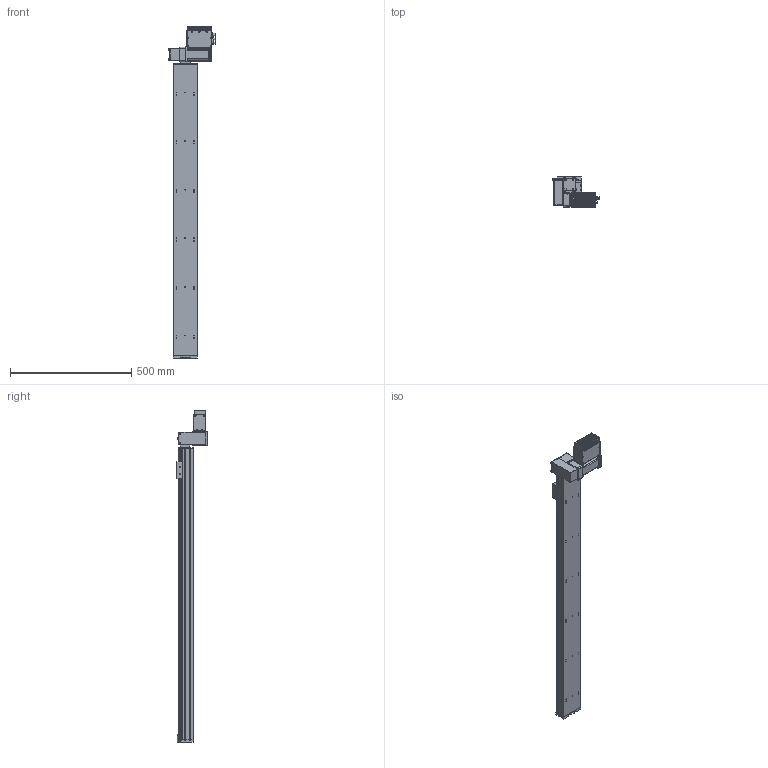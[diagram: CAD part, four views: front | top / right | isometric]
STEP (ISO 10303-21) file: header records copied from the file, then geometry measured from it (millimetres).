
FILE_DESCRIPTION (( 'STEP AP203' ), '1' );
FILE_NAME ('S10 TBN RH S1200.STEP', '2012-06-14T08:11:29', ( 'Conseil Régional Haute-Normandie' ), ( 'Conseil Régional Haute-Normandie' ), 'SwSTEP 2.0', 'SolidWorks 2010', '' );
FILE_SCHEMA (( 'CONFIG_CONTROL_DESIGN' ));
Length unit declared in the file: millimetre
Products named in the file (29): cache t皻e_Default; plaque de bout s10_Default; Assem1_7; Cvis M5 L30_Default; T_X2_00F4_X0_le contre le moteur_5; T_X2_00F4_X0_le fond_3; Couvercle_3; Connecteur rond D10 3cts_5; T_X2_00F4_X0_le Arri_X2_00E8_X0_re_5; T_X2_00F4_X0_le lat_X2_00E9_X0_rale_5; S10 TBN RH S1200; axe 1200; embout; palette tbn; cache t皻e axe_Default; renvoi LH_Default; Plaque racord_Default; vis M5 L12_Default; vis M5 L5_Default; BU41 Carte Alimentation P05_3; Colonnette_3; BU45 Carte d''axe A11_5; Moteur 60BLDC90A_3; Connecteur rond D12 4cts_5; Sub D 9cts 90_X2_00B_X0__3; Radiateur profil_X2_00E9_X0_ 100x25_3; Colonnette ronde_3; Vis TF 3 torkx_1_1; Vis TF 3 torkx
Assembly tree (65 placements, depth 3):
  S10 TBN RH S1200
    Vis TF 3 torkx  x7
    plaque de bout s10_Default
    Plaque racord_Default
    vis M5 L12_Default  x4
    vis M5 L5_Default  x4
    cache t皻e_Default  x2
    Cvis M5 L30_Default  x2
    Assem1_7
      T_X2_00F4_X0_le fond_3
      Vis TF 3 torkx_1_1  x21
      Moteur 60BLDC90A_3
      Connecteur rond D10 3cts_5  x2
      Colonnette_3  x2
      Connecteur rond D12 4cts_5
      T_X2_00F4_X0_le contre le moteur_5
      BU41 Carte Alimentation P05_3
      Sub D 9cts 90_X2_00B_X0__3
      Radiateur profil_X2_00E9_X0_ 100x25_3
      BU45 Carte d''axe A11_5
      Couvercle_3
      T_X2_00F4_X0_le Arri_X2_00E8_X0_re_5
      T_X2_00F4_X0_le lat_X2_00E9_X0_rale_5  x2
      Colonnette ronde_3
    embout
    cache t皻e axe_Default
    axe 1200
    renvoi LH_Default
    palette tbn
Bounding box: 189.8 x 124.75 x 1366.5 mm (x, y, z)
Volume: 7065464.4 mm3; surface area: 890084.6 mm2
Topology: 64 solids, 64 shells, 2384 faces, 5966 edges, 3866 vertices
Faces by surface type: plane 1140, cylinder 1029, cone 180, bspline 32, torus 3
Entity records: 47439 total; most frequent: CARTESIAN_POINT 8533, DIRECTION 7631, ORIENTED_EDGE 6952, EDGE_CURVE 3476, AXIS2_PLACEMENT_3D 2825, VERTEX_POINT 2272, VECTOR 1981, LINE 1981
